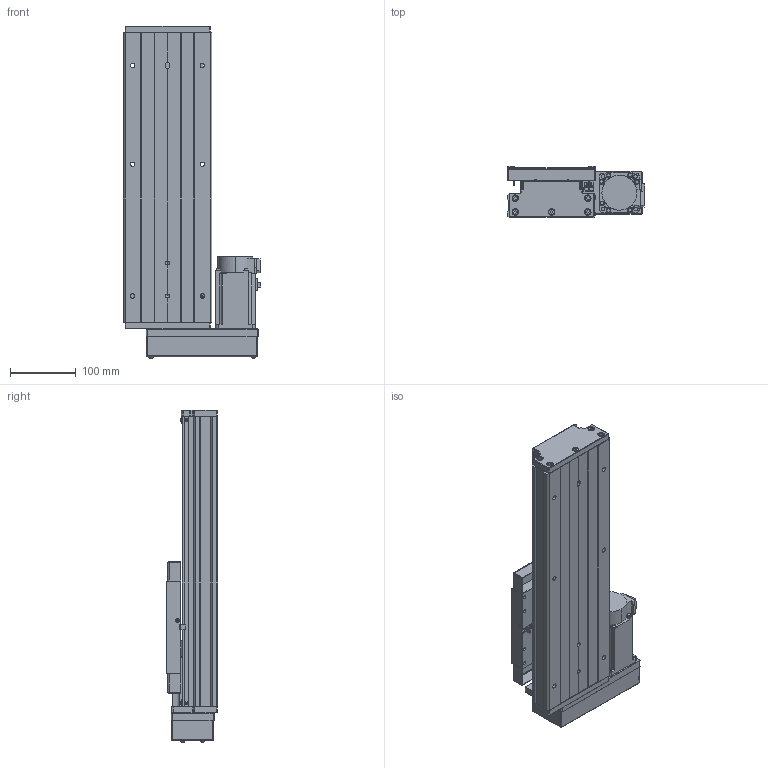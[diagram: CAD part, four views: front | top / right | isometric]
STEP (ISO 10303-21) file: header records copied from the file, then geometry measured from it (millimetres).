
FILE_DESCRIPTION (( 'STEP AP203' ), '1' );
FILE_NAME ('GTH14-200-BR-M40-C4.step', '2023-06-30T08:53:18', ( '微软用户' ), ( '微软中国' ), 'SwSTEP 2.0', 'SolidWorks 2020', '' );
FILE_SCHEMA (( 'CONFIG_CONTROL_DESIGN' ));
Length unit declared in the file: millimetre
Products named in the file (19): HG-KN43J-S100; GTH14-002_GTH14-002; CTHA60-016; GBT 70.2-M4¡Á35_M4¡Á35; GTH14-004; GBT 70.1-M3℅5; GTH14-015-2_CTHA86-015-2; GTH14-005; GBT77-2000 M3×3; GTH14-033; GB1155-6X6; GTH14-031; GTH14-200-BR-M40-C4; GBT70.1 M5℅16; GBT 70.2-M3¡Á5_M3¡Á6; CTHA60-017; す晦芛蹟隊 M3℅5; GTH14-001_200; EE_SX911P_R
Assembly tree (58 placements, depth 2):
  GTH14-200-BR-M40-C4
    GTH14-001_200
    GTH14-002_GTH14-002
    GTH14-004
    GTH14-005
    GB1155-6X6  x2
    GBT70.1 M5℅16  x10
    CTHA60-017  x3
    EE_SX911P_R  x3
    CTHA60-016  x2
    GBT 70.1-M3℅5  x6
    GBT77-2000 M3×3  x6
    GTH14-031
    GBT 70.2-M3¡Á5_M3¡Á6  x8
    す晦芛蹟隊 M3℅5  x6
    HG-KN43J-S100
    GBT 70.2-M4¡Á35_M4¡Á35  x4
    GTH14-015-2_CTHA86-015-2
    GTH14-033
Bounding box: 209.3 x 78 x 504.2 mm (x, y, z)
Volume: 3125909.4 mm3; surface area: 593383 mm2
Topology: 61 solids, 61 shells, 2433 faces, 5785 edges, 3562 vertices
Faces by surface type: plane 1303, cylinder 640, cone 314, torus 124, sphere 32, bspline 20
Entity records: 43542 total; most frequent: CARTESIAN_POINT 9757, DIRECTION 6369, ORIENTED_EDGE 6260, EDGE_CURVE 3130, AXIS2_PLACEMENT_3D 2166, LINE 2037, VECTOR 2037, VERTEX_POINT 1980
